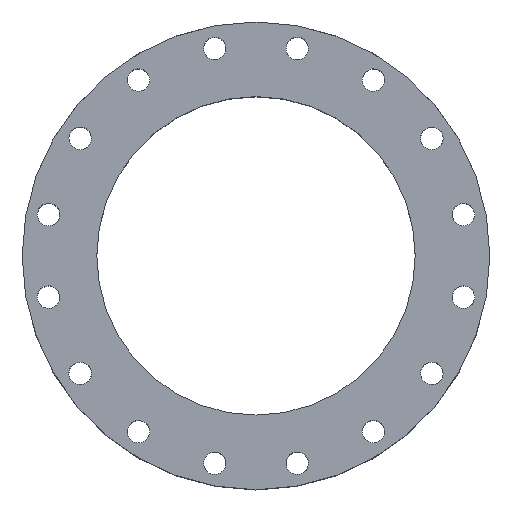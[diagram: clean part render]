
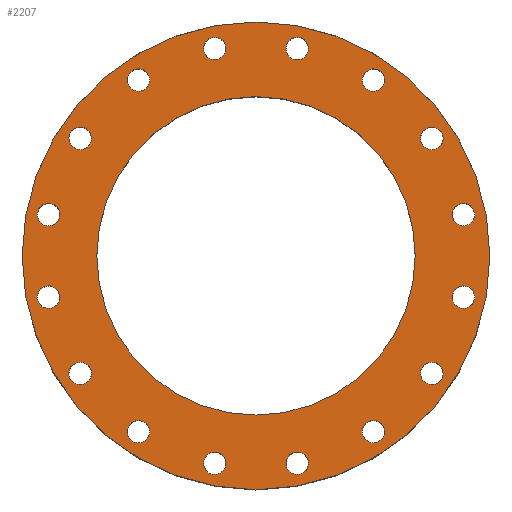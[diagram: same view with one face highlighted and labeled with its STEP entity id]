
A CAD part, top view. The second image highlights one B-rep face of the part: STEP entity #2207.
In plain terms, the highlighted planar face has unit normal (0, 0, 1).
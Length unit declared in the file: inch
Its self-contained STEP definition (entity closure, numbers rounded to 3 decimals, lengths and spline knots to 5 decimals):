
#56=FACE_BOUND('',#385,.T.);
#57=FACE_BOUND('',#386,.T.);
#58=FACE_BOUND('',#387,.T.);
#59=FACE_BOUND('',#388,.T.);
#60=FACE_BOUND('',#389,.T.);
#61=FACE_BOUND('',#390,.T.);
#62=FACE_BOUND('',#391,.T.);
#63=FACE_BOUND('',#392,.T.);
#64=FACE_BOUND('',#393,.T.);
#65=FACE_BOUND('',#394,.T.);
#66=FACE_BOUND('',#395,.T.);
#67=FACE_BOUND('',#396,.T.);
#68=FACE_BOUND('',#397,.T.);
#69=FACE_BOUND('',#398,.T.);
#70=FACE_BOUND('',#399,.T.);
#71=FACE_BOUND('',#400,.T.);
#72=FACE_BOUND('',#401,.T.);
#160=PLANE('',#2441);
#236=FACE_OUTER_BOUND('',#384,.T.);
#384=EDGE_LOOP('',(#1636));
#385=EDGE_LOOP('',(#1637));
#386=EDGE_LOOP('',(#1638));
#387=EDGE_LOOP('',(#1639));
#388=EDGE_LOOP('',(#1640));
#389=EDGE_LOOP('',(#1641));
#390=EDGE_LOOP('',(#1642));
#391=EDGE_LOOP('',(#1643));
#392=EDGE_LOOP('',(#1644));
#393=EDGE_LOOP('',(#1645));
#394=EDGE_LOOP('',(#1646));
#395=EDGE_LOOP('',(#1647));
#396=EDGE_LOOP('',(#1648));
#397=EDGE_LOOP('',(#1649));
#398=EDGE_LOOP('',(#1650));
#399=EDGE_LOOP('',(#1651));
#400=EDGE_LOOP('',(#1652));
#401=EDGE_LOOP('',(#1653));
#812=CIRCLE('',#2390,0.565);
#814=CIRCLE('',#2393,0.565);
#816=CIRCLE('',#2396,0.565);
#818=CIRCLE('',#2399,0.565);
#820=CIRCLE('',#2402,0.565);
#822=CIRCLE('',#2405,0.565);
#824=CIRCLE('',#2408,0.565);
#826=CIRCLE('',#2411,0.565);
#828=CIRCLE('',#2414,0.565);
#830=CIRCLE('',#2417,0.565);
#832=CIRCLE('',#2420,0.565);
#834=CIRCLE('',#2423,0.565);
#836=CIRCLE('',#2426,0.565);
#838=CIRCLE('',#2429,0.565);
#840=CIRCLE('',#2432,0.565);
#842=CIRCLE('',#2435,0.565);
#843=CIRCLE('',#2437,8.);
#845=CIRCLE('',#2440,11.75);
#984=VERTEX_POINT('',#3441);
#986=VERTEX_POINT('',#3447);
#988=VERTEX_POINT('',#3453);
#990=VERTEX_POINT('',#3459);
#992=VERTEX_POINT('',#3465);
#994=VERTEX_POINT('',#3471);
#996=VERTEX_POINT('',#3477);
#998=VERTEX_POINT('',#3483);
#1000=VERTEX_POINT('',#3489);
#1002=VERTEX_POINT('',#3495);
#1004=VERTEX_POINT('',#3501);
#1006=VERTEX_POINT('',#3507);
#1008=VERTEX_POINT('',#3513);
#1010=VERTEX_POINT('',#3519);
#1012=VERTEX_POINT('',#3525);
#1014=VERTEX_POINT('',#3531);
#1015=VERTEX_POINT('',#3535);
#1017=VERTEX_POINT('',#3541);
#1201=EDGE_CURVE('',#984,#984,#812,.T.);
#1204=EDGE_CURVE('',#986,#986,#814,.T.);
#1207=EDGE_CURVE('',#988,#988,#816,.T.);
#1210=EDGE_CURVE('',#990,#990,#818,.T.);
#1213=EDGE_CURVE('',#992,#992,#820,.T.);
#1216=EDGE_CURVE('',#994,#994,#822,.T.);
#1219=EDGE_CURVE('',#996,#996,#824,.T.);
#1222=EDGE_CURVE('',#998,#998,#826,.T.);
#1225=EDGE_CURVE('',#1000,#1000,#828,.T.);
#1228=EDGE_CURVE('',#1002,#1002,#830,.T.);
#1231=EDGE_CURVE('',#1004,#1004,#832,.T.);
#1234=EDGE_CURVE('',#1006,#1006,#834,.T.);
#1237=EDGE_CURVE('',#1008,#1008,#836,.T.);
#1240=EDGE_CURVE('',#1010,#1010,#838,.T.);
#1243=EDGE_CURVE('',#1012,#1012,#840,.T.);
#1246=EDGE_CURVE('',#1014,#1014,#842,.T.);
#1247=EDGE_CURVE('',#1015,#1015,#843,.T.);
#1251=EDGE_CURVE('',#1017,#1017,#845,.T.);
#1636=ORIENTED_EDGE('',*,*,#1251,.F.);
#1637=ORIENTED_EDGE('',*,*,#1201,.T.);
#1638=ORIENTED_EDGE('',*,*,#1204,.T.);
#1639=ORIENTED_EDGE('',*,*,#1207,.T.);
#1640=ORIENTED_EDGE('',*,*,#1210,.T.);
#1641=ORIENTED_EDGE('',*,*,#1213,.T.);
#1642=ORIENTED_EDGE('',*,*,#1216,.T.);
#1643=ORIENTED_EDGE('',*,*,#1219,.T.);
#1644=ORIENTED_EDGE('',*,*,#1222,.T.);
#1645=ORIENTED_EDGE('',*,*,#1225,.T.);
#1646=ORIENTED_EDGE('',*,*,#1228,.T.);
#1647=ORIENTED_EDGE('',*,*,#1231,.T.);
#1648=ORIENTED_EDGE('',*,*,#1234,.T.);
#1649=ORIENTED_EDGE('',*,*,#1237,.T.);
#1650=ORIENTED_EDGE('',*,*,#1240,.T.);
#1651=ORIENTED_EDGE('',*,*,#1243,.T.);
#1652=ORIENTED_EDGE('',*,*,#1246,.T.);
#1653=ORIENTED_EDGE('',*,*,#1247,.T.);
#2207=ADVANCED_FACE('',(#236,#56,#57,#58,#59,#60,#61,#62,#63,#64,#65,#66,
#67,#68,#69,#70,#71,#72),#160,.F.);
#2390=AXIS2_PLACEMENT_3D('',#3443,#2802,#2803);
#2393=AXIS2_PLACEMENT_3D('',#3449,#2809,#2810);
#2396=AXIS2_PLACEMENT_3D('',#3455,#2816,#2817);
#2399=AXIS2_PLACEMENT_3D('',#3461,#2823,#2824);
#2402=AXIS2_PLACEMENT_3D('',#3467,#2830,#2831);
#2405=AXIS2_PLACEMENT_3D('',#3473,#2837,#2838);
#2408=AXIS2_PLACEMENT_3D('',#3479,#2844,#2845);
#2411=AXIS2_PLACEMENT_3D('',#3485,#2851,#2852);
#2414=AXIS2_PLACEMENT_3D('',#3491,#2858,#2859);
#2417=AXIS2_PLACEMENT_3D('',#3497,#2865,#2866);
#2420=AXIS2_PLACEMENT_3D('',#3503,#2872,#2873);
#2423=AXIS2_PLACEMENT_3D('',#3509,#2879,#2880);
#2426=AXIS2_PLACEMENT_3D('',#3515,#2886,#2887);
#2429=AXIS2_PLACEMENT_3D('',#3521,#2893,#2894);
#2432=AXIS2_PLACEMENT_3D('',#3527,#2900,#2901);
#2435=AXIS2_PLACEMENT_3D('',#3533,#2907,#2908);
#2437=AXIS2_PLACEMENT_3D('',#3536,#2911,#2912);
#2440=AXIS2_PLACEMENT_3D('',#3543,#2919,#2920);
#2441=AXIS2_PLACEMENT_3D('',#3544,#2921,#2922);
#2802=DIRECTION('center_axis',(0.,0.,
-1.));
#2803=DIRECTION('ref_axis',(0.707,-0.707,0.));
#2809=DIRECTION('center_axis',(0.,0.,
-1.));
#2810=DIRECTION('ref_axis',(0.383,-0.924,0.));
#2816=DIRECTION('center_axis',(0.,0.,
-1.));
#2817=DIRECTION('ref_axis',(0.,-1.,0.));
#2823=DIRECTION('center_axis',(0.,0.,
-1.));
#2824=DIRECTION('ref_axis',(-0.383,-0.924,0.));
#2830=DIRECTION('center_axis',(0.,0.,
-1.));
#2831=DIRECTION('ref_axis',(-0.707,-0.707,0.));
#2837=DIRECTION('center_axis',(0.,0.,
-1.));
#2838=DIRECTION('ref_axis',(-0.924,-0.383,0.));
#2844=DIRECTION('center_axis',(0.,0.,
-1.));
#2845=DIRECTION('ref_axis',(-1.,0.,0.));
#2851=DIRECTION('center_axis',(0.,0.,
-1.));
#2852=DIRECTION('ref_axis',(-0.924,0.383,0.));
#2858=DIRECTION('center_axis',(0.,0.,
-1.));
#2859=DIRECTION('ref_axis',(-0.707,0.707,0.));
#2865=DIRECTION('center_axis',(0.,0.,
-1.));
#2866=DIRECTION('ref_axis',(-0.383,0.924,0.));
#2872=DIRECTION('center_axis',(0.,0.,
-1.));
#2873=DIRECTION('ref_axis',(0.,1.,0.));
#2879=DIRECTION('center_axis',(0.,0.,
-1.));
#2880=DIRECTION('ref_axis',(0.383,0.924,0.));
#2886=DIRECTION('center_axis',(0.,0.,
-1.));
#2887=DIRECTION('ref_axis',(0.707,0.707,0.));
#2893=DIRECTION('center_axis',(0.,0.,
-1.));
#2894=DIRECTION('ref_axis',(0.924,0.383,0.));
#2900=DIRECTION('center_axis',(0.,0.,
-1.));
#2901=DIRECTION('ref_axis',(0.924,-0.383,0.));
#2907=DIRECTION('center_axis',(0.,0.,
-1.));
#2908=DIRECTION('ref_axis',(1.,0.,0.));
#2911=DIRECTION('center_axis',(0.,0.,
-1.));
#2912=DIRECTION('ref_axis',(-1.,0.,0.));
#2919=DIRECTION('center_axis',(0.,0.,
-1.));
#2920=DIRECTION('ref_axis',(1.,0.,0.));
#2921=DIRECTION('center_axis',(0.,0.,
-1.));
#2922=DIRECTION('ref_axis',(1.,0.,0.));
#3441=CARTESIAN_POINT('',(-9.23388,-5.50342,4.));
#3443=CARTESIAN_POINT('Origin',(-8.83436,-5.90293,4.));
#3447=CARTESIAN_POINT('',(-10.63706,-1.55084,4.));
#3449=CARTESIAN_POINT('Origin',(-10.42084,-2.07283,4.));
#3453=CARTESIAN_POINT('',(-10.42084,2.63783,4.));
#3455=CARTESIAN_POINT('Origin',(-10.42084,2.07283,4.));
#3459=CARTESIAN_POINT('',(-8.61815,6.42493,4.));
#3461=CARTESIAN_POINT('Origin',(-8.83436,5.90293,4.));
#3465=CARTESIAN_POINT('',(-5.50342,9.23388,4.));
#3467=CARTESIAN_POINT('Origin',(-5.90293,8.83436,4.));
#3471=CARTESIAN_POINT('',(-1.55084,10.63706,4.));
#3473=CARTESIAN_POINT('Origin',(-2.07283,10.42084,4.));
#3477=CARTESIAN_POINT('',(2.63783,10.42084,4.));
#3479=CARTESIAN_POINT('Origin',(2.07283,10.42084,4.));
#3483=CARTESIAN_POINT('',(6.42493,8.61815,4.));
#3485=CARTESIAN_POINT('Origin',(5.90293,8.83436,4.));
#3489=CARTESIAN_POINT('',(9.23388,5.50342,4.));
#3491=CARTESIAN_POINT('Origin',(8.83436,5.90293,4.));
#3495=CARTESIAN_POINT('',(10.63706,1.55084,4.));
#3497=CARTESIAN_POINT('Origin',(10.42084,2.07283,4.));
#3501=CARTESIAN_POINT('',(10.42084,-2.63783,4.));
#3503=CARTESIAN_POINT('Origin',(10.42084,-2.07283,4.));
#3507=CARTESIAN_POINT('',(8.61815,-6.42493,4.));
#3509=CARTESIAN_POINT('Origin',(8.83436,-5.90293,4.));
#3513=CARTESIAN_POINT('',(5.50342,-9.23388,4.));
#3515=CARTESIAN_POINT('Origin',(5.90293,-8.83436,4.));
#3519=CARTESIAN_POINT('',(1.55084,-10.63706,4.));
#3521=CARTESIAN_POINT('Origin',(2.07283,-10.42084,4.));
#3525=CARTESIAN_POINT('',(-6.42493,-8.61815,4.));
#3527=CARTESIAN_POINT('Origin',(-5.90293,-8.83436,4.));
#3531=CARTESIAN_POINT('',(-2.63783,-10.42084,4.));
#3533=CARTESIAN_POINT('Origin',(-2.07283,-10.42084,4.));
#3535=CARTESIAN_POINT('',(8.,0.,4.));
#3536=CARTESIAN_POINT('Origin',(0.,0.,
4.));
#3541=CARTESIAN_POINT('',(-11.75,0.,4.));
#3543=CARTESIAN_POINT('Origin',(0.,0.,
4.));
#3544=CARTESIAN_POINT('Origin',(0.,0.,
4.));
